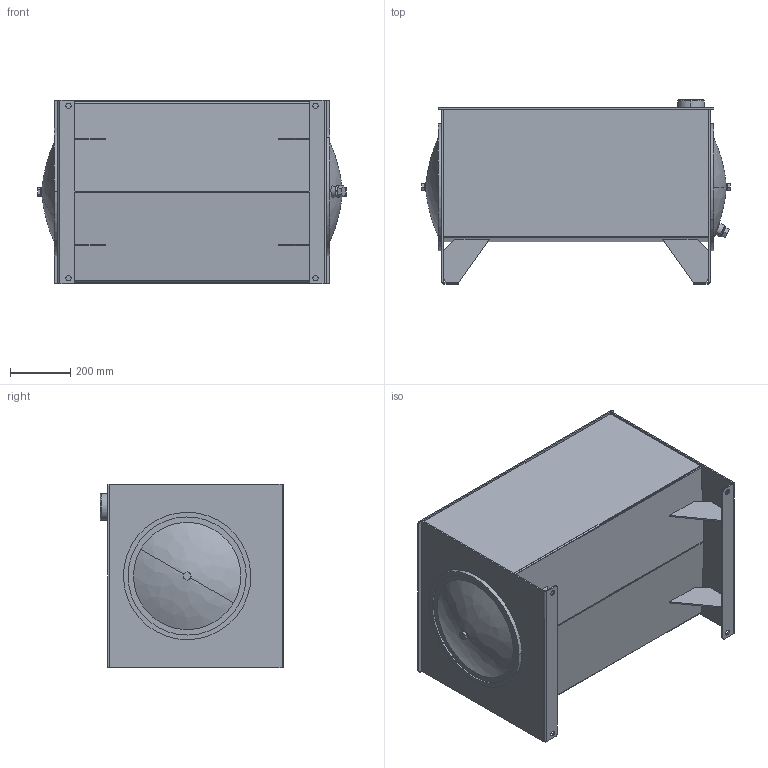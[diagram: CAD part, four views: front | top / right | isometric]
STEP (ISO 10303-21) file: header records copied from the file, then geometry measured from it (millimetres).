
FILE_DESCRIPTION (( 'STEP AP214' ), '1' );
FILE_NAME ('T1-50.STEP', '2019-11-16T15:44:01', ( '' ), ( '' ), 'SwSTEP 2.0', 'SolidWorks 2013', '' );
FILE_SCHEMA (( 'AUTOMOTIVE_DESIGN' ));
Length unit declared in the file: inch
Products named in the file (17): T1-50; TL-EC-16; 16.00 END COVER; TL-ECD-16; DRAIN; 16.00 END COVER WITH DRAIN; 0.625 - 11 BAFFLE NUT; 0.625 - 11 HEX BOLT; CRUSH WASHER; 16.00 GASKET; FILLER RISER; T1-50-GST; T1-50-BFL; T1-50-BDY; T1-50-EB; T1-50-EA; T1-50-LD
Assembly tree (23 placements, depth 3):
  T1-50
    T1-50-LD
    T1-50-EA
    T1-50-EB
    T1-50-BDY
    T1-50-BFL
    T1-50-GST  x4
    FILLER RISER
    TL-ECD-16
      16.00 GASKET
      CRUSH WASHER
      0.625 - 11 HEX BOLT
      0.625 - 11 BAFFLE NUT
      16.00 END COVER WITH DRAIN
      DRAIN
    TL-EC-16
      16.00 END COVER
      16.00 GASKET
      CRUSH WASHER
      0.625 - 11 HEX BOLT
      0.625 - 11 BAFFLE NUT
Bounding box: 1023.61 x 609.6 x 609.6 mm (x, y, z)
Volume: 12785832.7 mm3; surface area: 6497978.2 mm2
Topology: 22 solids, 22 shells, 294 faces, 676 edges, 434 vertices
Faces by surface type: plane 165, cylinder 109, cone 10, bspline 8, torus 2
Entity records: 8553 total; most frequent: CARTESIAN_POINT 1469, DIRECTION 1242, ORIENTED_EDGE 1076, EDGE_CURVE 538, AXIS2_PLACEMENT_3D 465, VERTEX_POINT 342, LINE 312, VECTOR 312
